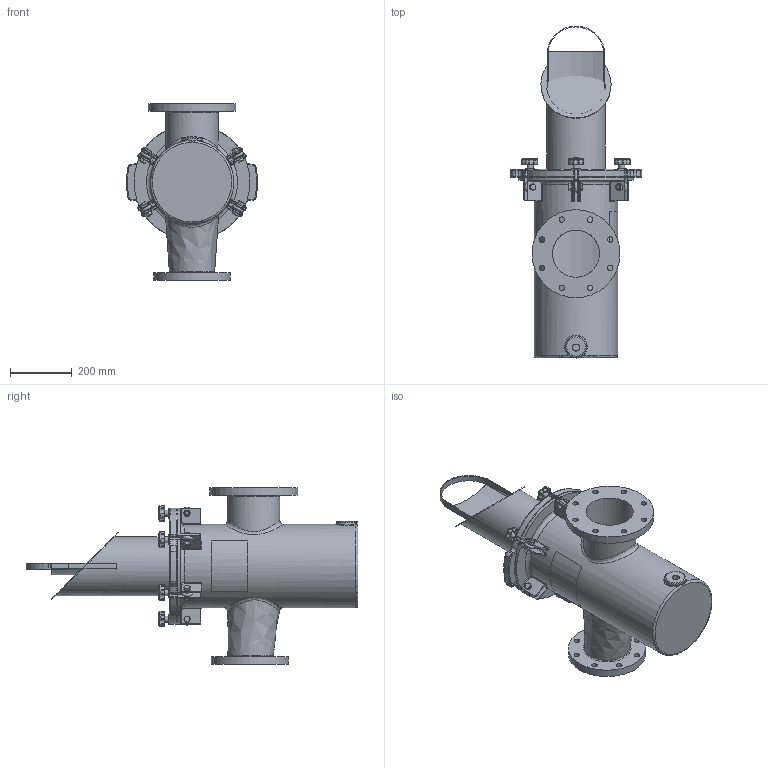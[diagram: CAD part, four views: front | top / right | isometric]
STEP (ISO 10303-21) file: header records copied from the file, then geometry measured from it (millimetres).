
FILE_DESCRIPTION(/* description */ ('150MM X 125MM FIBERGLASS STRAINER BODY'),/* implementation_level */ '2;1');
FILE_NAME(/* name */ 'C:\Users\r.kommineni.ext\Desktop\NB\CAD\Workspace\FG Reducing Strainer\Guardian FG Reducing H&L Strainer (Metric)_CLEARANCE VOLUME\STRAINER H&L 150MM X 125MM.stp',/* time_stamp */ '2017-06-09T13:34:05-04:00',/* author */ ('r.kommineni.ext'),/* organization */ (''),/* preprocessor_version */ 'ST-DEVELOPER v16.1',/* originating_system */ 'Autodesk Inventor 2016',/* authorisation */ '');
FILE_SCHEMA (('CONFIG_CONTROL_DESIGN'));
Length unit declared in the file: inch
Products named in the file (19): NBFGBODY06X05MM; 150NBCVR48R1; 150NBGSK48R1; Perforated Basket 10in; Bride (Ring) 10in; Baffle 10in; Handle 10in; Bottom Strainer 10in; Nut- 1_2  UNC; Bolt-1_2 x 1 1_2  UNC; EyeBolt; Washer; Knob M10; Securing Assembly For FG without Brace; Label for 10.625 inch (Right); Label for 10.625 inch (Left); NBBSK08T316_clearance; NBBSK08T316_clearance_1; STRAINER H&L 150MM X 125MM
Assembly tree (23 placements, depth 3):
  STRAINER H&L 150MM X 125MM
    NBFGBODY06X05MM
    150NBCVR48R1
    150NBGSK48R1
    NBBSK08T316_clearance_1
      Perforated Basket 10in
      Bride (Ring) 10in
      Baffle 10in
      Handle 10in
      Bottom Strainer 10in
      NBBSK08T316_clearance
    Securing Assembly For FG without Brace  x6
      Nut- 1_2  UNC
      Bolt-1_2 x 1 1_2  UNC
      EyeBolt
      Washer
      Knob M10
    Label for 10.625 inch (Right)
    Label for 10.625 inch (Left)
Bounding box: 424.18 x 1073.15 x 571.5 mm (x, y, z)
Volume: 11515439.6 mm3; surface area: 3170677.5 mm2
Topology: 40 solids, 45 shells, 1297 faces, 2993 edges, 1777 vertices
Faces by surface type: cylinder 476, plane 344, cone 138, torus 124, bspline 113, sphere 102
Full cylindrical faces by diameter (mm): 3.175 x10, 6.35 x2, 8.382 x6, 9.525 x12, 10.592 x6, 12.7 x6, 15.875 x12, 17.78 x16, 19 x12, 19.05 x6, 22.809 x1, 31.75 x6, 68.263 x1, 152.4 x1, 168.275 x1, 187.325 x2, 190.5 x2, 193.04 x1, 248.92 x1, 254 x2, 266.7 x1, 269.875 x1, 276.225 x1, 284.48 x1, 311.15 x1, 317.5 x1
Entity records: 27437 total; most frequent: CARTESIAN_POINT 10777, DIRECTION 3451, ORIENTED_EDGE 3100, EDGE_CURVE 1576, AXIS2_PLACEMENT_3D 1445, VERTEX_POINT 1003, EDGE_LOOP 885, CIRCLE 726
